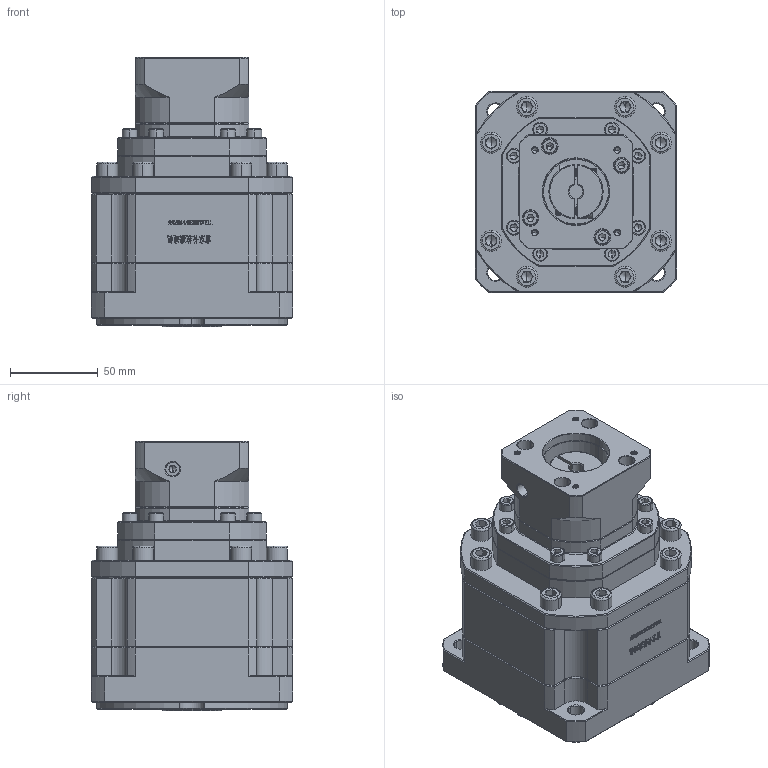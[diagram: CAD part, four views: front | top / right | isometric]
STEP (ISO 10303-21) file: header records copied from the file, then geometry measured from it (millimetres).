
FILE_DESCRIPTION (( 'STEP AP214' ), '1' );
FILE_NAME ('ZB115A-K25-L3-8-38.1-47.14X47.14-M4.step', '2023-03-03T09:59:56', ( '' ), ( 'Microsoft' ), 'SwSTEP 2.0', 'SolidWorks 2016', '' );
FILE_SCHEMA (( 'AUTOMOTIVE_DESIGN' ));
Length unit declared in the file: millimetre
Products named in the file (1): ZB115A-K25-L3-8-38.1-47.14X47.14-M4
Bounding box: 115 x 115 x 154 mm (x, y, z)
Volume: 1255731.9 mm3; surface area: 119461.9 mm2
Topology: 7 solids, 7 shells, 2216 faces, 5753 edges, 3646 vertices
Faces by surface type: plane 1119, cylinder 401, cone 338, bspline 336, torus 22
Entity records: 108840 total; most frequent: CARTESIAN_POINT 32870, ORIENTED_EDGE 11386, DIRECTION 9574, EDGE_CURVE 5693, VERTEX_POINT 3646, LINE 3582, VECTOR 3582, AXIS2_PLACEMENT_3D 2996
